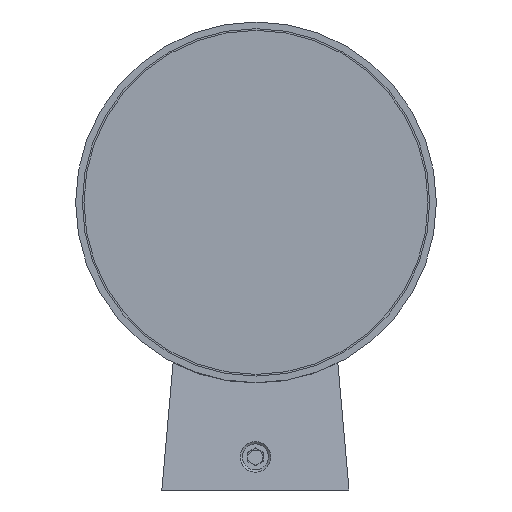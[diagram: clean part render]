
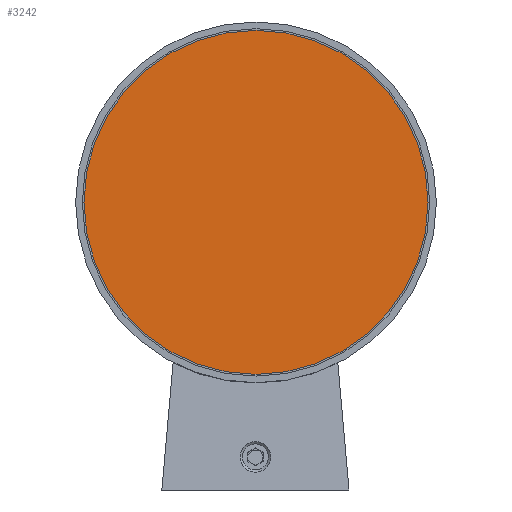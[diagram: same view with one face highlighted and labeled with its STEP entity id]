
A CAD part, front view. The second image highlights one B-rep face of the part: STEP entity #3242.
In plain terms, the highlighted planar face has unit normal (0, -1, 0).
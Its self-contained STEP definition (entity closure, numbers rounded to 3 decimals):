
#2559 = ORIENTED_EDGE ( 'NONE', *, *, #17732, .F. ) ;
#2867 = DIRECTION ( 'NONE',  ( 0., 1., 0. ) ) ;
#3242 = ADVANCED_FACE ( 'NONE', ( #16437 ), #17518, .F. ) ;
#4517 = AXIS2_PLACEMENT_3D ( 'NONE', #10169, #2867, #5934 ) ;
#5152 = CARTESIAN_POINT ( 'NONE',  ( 0., 0., 51.5 ) ) ;
#5605 = DIRECTION ( 'NONE',  ( 0., 0., 1. ) ) ;
#5934 = DIRECTION ( 'NONE',  ( 0., 0., 1. ) ) ;
#8284 = CARTESIAN_POINT ( 'NONE',  ( 0., 0., 0. ) ) ;
#8895 = AXIS2_PLACEMENT_3D ( 'NONE', #8284, #16297, #5605 ) ;
#10169 = CARTESIAN_POINT ( 'NONE',  ( 0., 0., 0. ) ) ;
#12743 = VERTEX_POINT ( 'NONE', #5152 ) ;
#14286 = EDGE_LOOP ( 'NONE', ( #2559 ) ) ;
#16297 = DIRECTION ( 'NONE',  ( 0., 1., 0. ) ) ;
#16437 = FACE_OUTER_BOUND ( 'NONE', #14286, .T. ) ;
#17173 = CIRCLE ( 'NONE', #8895, 51.5 ) ;
#17518 = PLANE ( 'NONE',  #4517 ) ;
#17732 = EDGE_CURVE ( 'NONE', #12743, #12743, #17173, .T. ) ;
